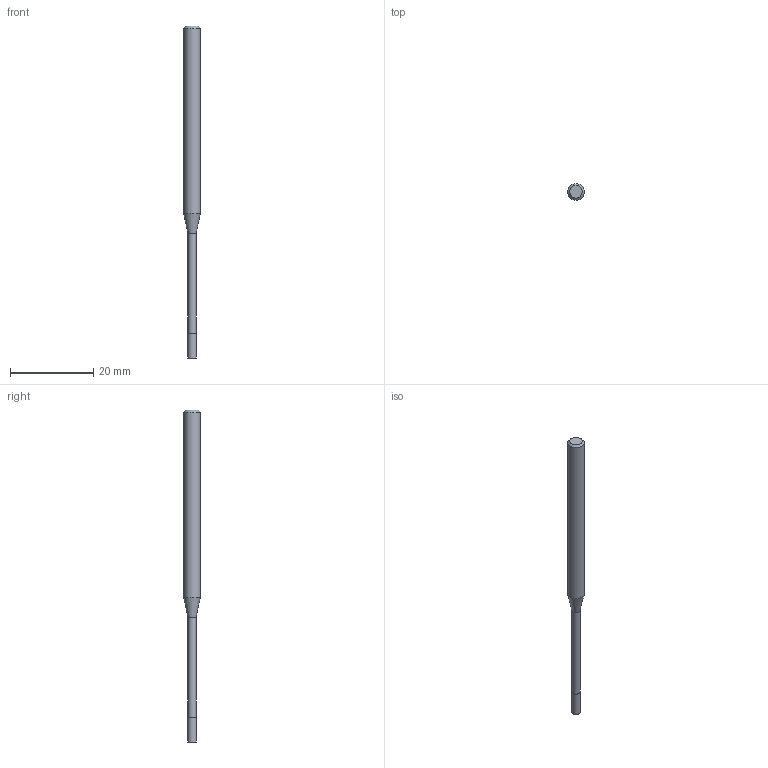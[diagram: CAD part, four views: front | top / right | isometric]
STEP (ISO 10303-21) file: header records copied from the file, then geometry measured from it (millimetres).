
FILE_DESCRIPTION((''),'2;1');
FILE_NAME('C:\Users\nsx150\Desktop\RSE230_20210427\01-00644-02030 RSE230 D2X6X30.step','2021-05-07T14:53:44',(''),(''),'STEP Write','Mastercam 2021 ... CNC Software, Inc.','');
FILE_SCHEMA(('AUTOMOTIVE_DESIGN'));
Length unit declared in the file: millimetre
Products named in the file (1): None
Bounding box: 4 x 4 x 80 mm (x, y, z)
Volume: 690.7 mm3; surface area: 815.4 mm2
Topology: 2 solids, 2 shells, 9 faces, 12 edges, 7 vertices
Faces by surface type: plane 4, cylinder 3, cone 2
Full cylindrical faces by diameter (mm): 1.94 x1, 2 x1, 4 x1
Entity records: 211 total; most frequent: DIRECTION 36, CARTESIAN_POINT 25, AXIS2_PLACEMENT_3D 18, ORIENTED_EDGE 14, EDGE_LOOP 14, STYLED_ITEM 12, ADVANCED_FACE 9, FACE_BOUND 8
